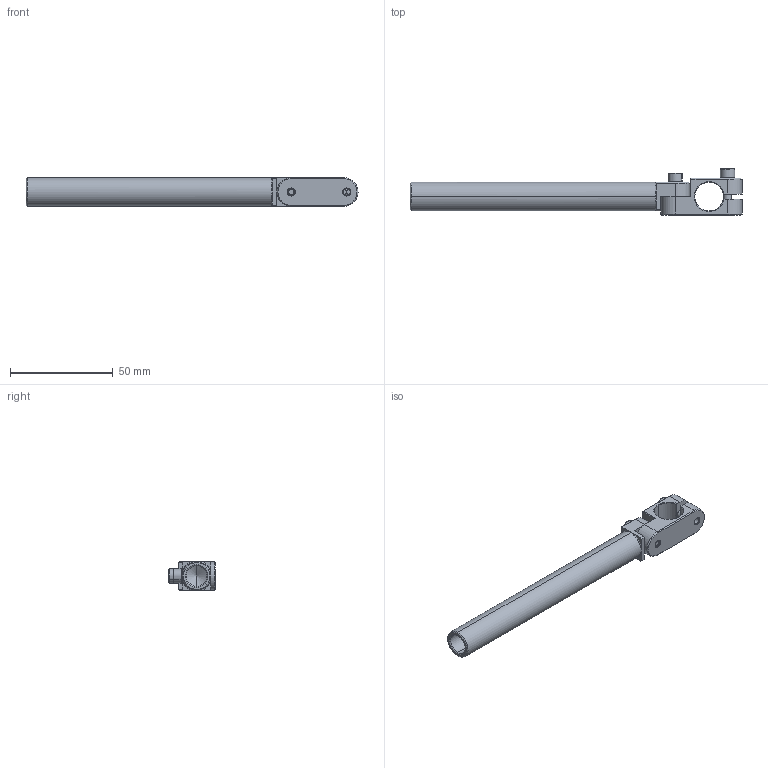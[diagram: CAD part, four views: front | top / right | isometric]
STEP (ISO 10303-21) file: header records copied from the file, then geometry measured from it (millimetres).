
FILE_DESCRIPTION (( 'STEP AP214' ), '1' );
FILE_NAME ('SEA-1414L120.STEP', '2019-11-11T02:35:56', ( '微软用户' ), ( '微软中国' ), 'SwSTEP 2.0', 'SolidWorks 2016', '' );
FILE_SCHEMA (( 'AUTOMOTIVE_DESIGN' ));
Length unit declared in the file: millimetre
Products named in the file (1): SEA-1414L120
Bounding box: 161.8 x 22.5 x 14 mm (x, y, z)
Volume: 17646.7 mm3; surface area: 13498.4 mm2
Topology: 6 solids, 6 shells, 512 faces, 1452 edges, 939 vertices
Faces by surface type: plane 435, cylinder 35, cone 26, bspline 16
Entity records: 24326 total; most frequent: CARTESIAN_POINT 5066, ORIENTED_EDGE 2876, DIRECTION 2875, EDGE_CURVE 1438, AXIS2_PLACEMENT_3D 968, VECTOR 939, LINE 939, VERTEX_POINT 939
